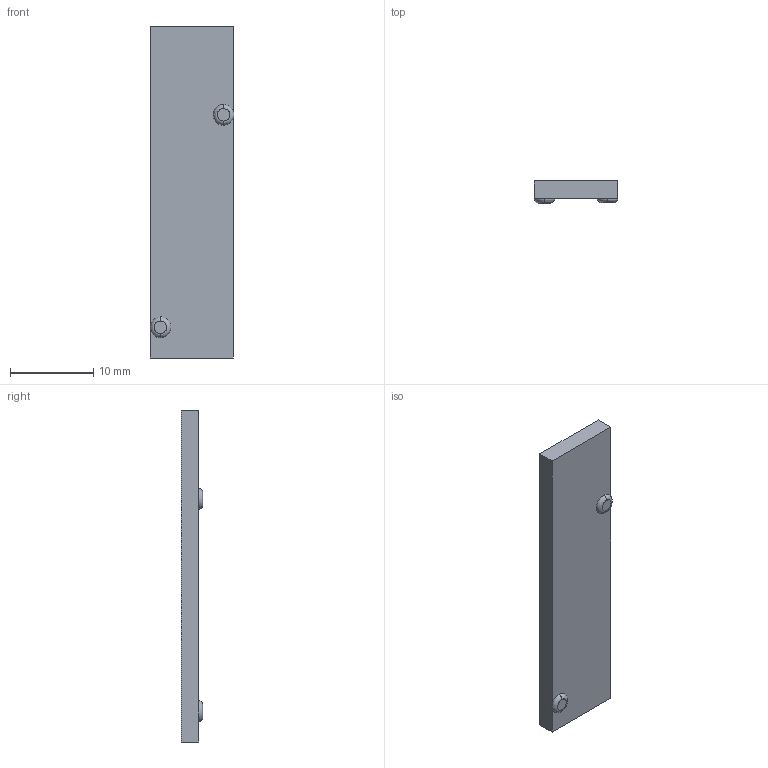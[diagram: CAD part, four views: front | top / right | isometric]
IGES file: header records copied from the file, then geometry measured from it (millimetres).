
Start section: ------------------------------------------------------------------------
Global section: file name: D:\ICADMX\tmp\trans3d_spg\CVICAD02.18044.F10XBPP_14969.igs; native system: spGate; preprocessor: ver12.6.6; author: Unknown; organization: Unknown; date: 200901.145703; units: millimetre
Bounding box: 10.1 x 2.6 x 40 mm (x, y, z)
Volume: 844.2 mm3; surface area: 1014.4 mm2
Topology: 1 solids, 1 shells, 14 faces, 32 edges, 20 vertices
Faces by surface type: bspline 14
